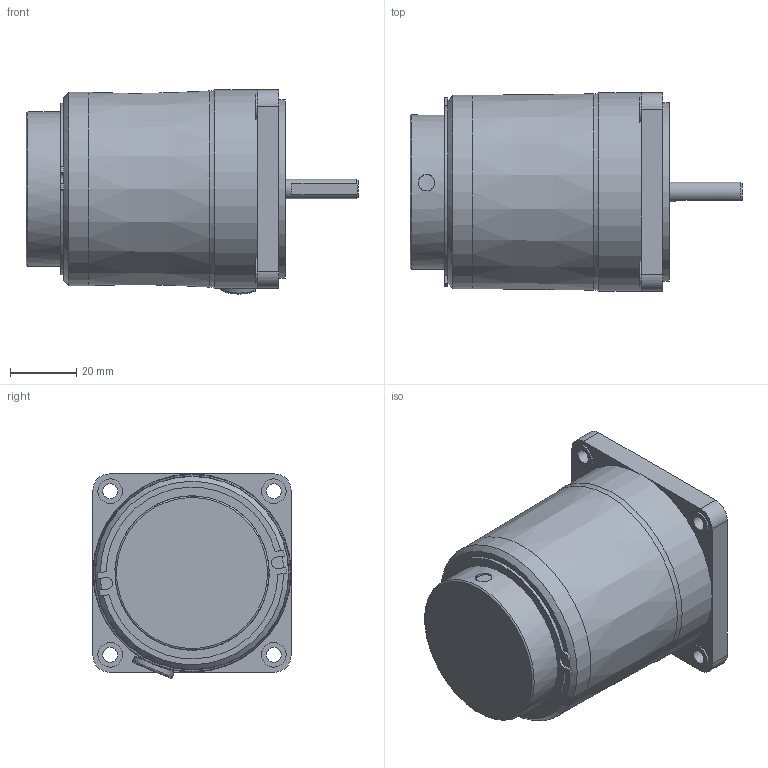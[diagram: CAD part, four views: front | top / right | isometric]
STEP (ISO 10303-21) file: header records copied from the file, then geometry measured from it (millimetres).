
FILE_DESCRIPTION((''),'2;1');
FILE_NAME('D:\STP파일\6W MOTOR\T BOX TYPE\S6(I,R)06D-T.stp','2013-05-20T15:55:49',('leebh'),(''),'Autodesk Inventor 2011','Autodesk Inventor 2011','');
FILE_SCHEMA(('AUTOMOTIVE_DESIGN { 1 0 10303 214 1 1 1 1 }'));
Length unit declared in the file: millimetre
Products named in the file (1): 부품2
Bounding box: 100.5 x 60 x 61.8 mm (x, y, z)
Volume: 202732.2 mm3; surface area: 23461.8 mm2
Topology: 1 solids, 2 shells, 106 faces, 270 edges, 174 vertices
Faces by surface type: plane 56, cylinder 44, cone 3, torus 3
Full cylindrical faces by diameter (mm): 4.5 x4, 5 x1, 6 x1, 7.5 x4, 8 x1, 10.1 x1, 25 x1, 46.7 x1, 54 x1, 58.5 x1, 60 x1
Entity records: 3227 total; most frequent: CARTESIAN_POINT 653, DIRECTION 551, ORIENTED_EDGE 488, EDGE_CURVE 244, AXIS2_PLACEMENT_3D 212, VERTEX_POINT 170, EDGE_LOOP 148, VECTOR 127
